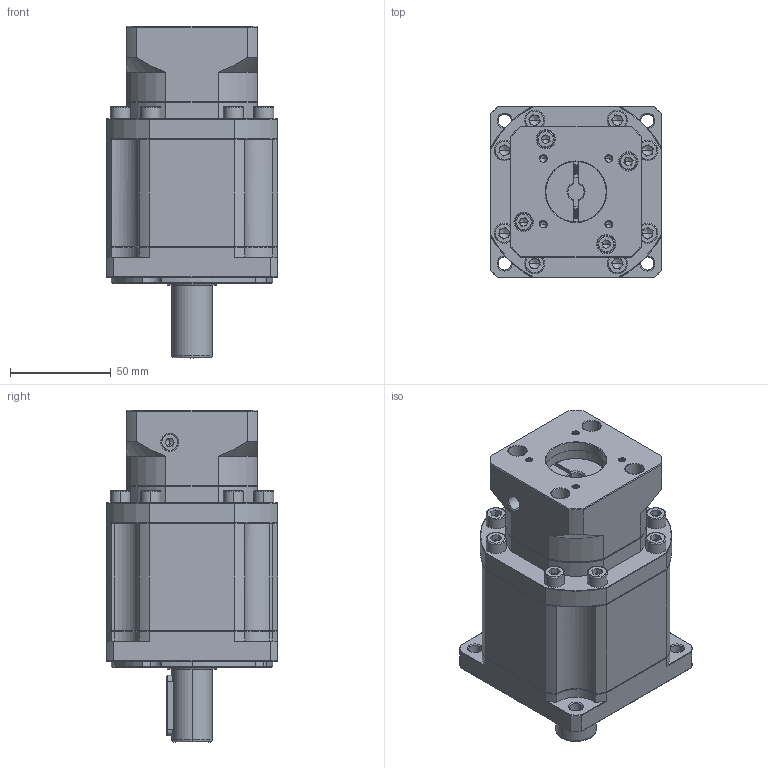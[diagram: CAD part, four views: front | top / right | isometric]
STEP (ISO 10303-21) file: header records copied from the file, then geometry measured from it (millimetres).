
FILE_DESCRIPTION (( 'STEP AP214' ), '1' );
FILE_NAME ('ZB90-D20-L3-8-30-46-M4.STEP', '2022-05-02T15:10:30', ( '' ), ( 'Microsoft' ), 'SwSTEP 2.0', 'SolidWorks 2016', '' );
FILE_SCHEMA (( 'AUTOMOTIVE_DESIGN' ));
Length unit declared in the file: millimetre
Products named in the file (1): ZB90-D20-L3-8-30-46-M4
Bounding box: 85 x 85 x 164.5 mm (x, y, z)
Volume: 671491.1 mm3; surface area: 82545.8 mm2
Topology: 6 solids, 6 shells, 2073 faces, 5432 edges, 3450 vertices
Faces by surface type: plane 1005, cylinder 394, bspline 328, cone 324, torus 22
Entity records: 107221 total; most frequent: CARTESIAN_POINT 36033, ORIENTED_EDGE 10772, DIRECTION 8916, EDGE_CURVE 5386, VERTEX_POINT 3450, VECTOR 3304, LINE 3304, AXIS2_PLACEMENT_3D 2806
